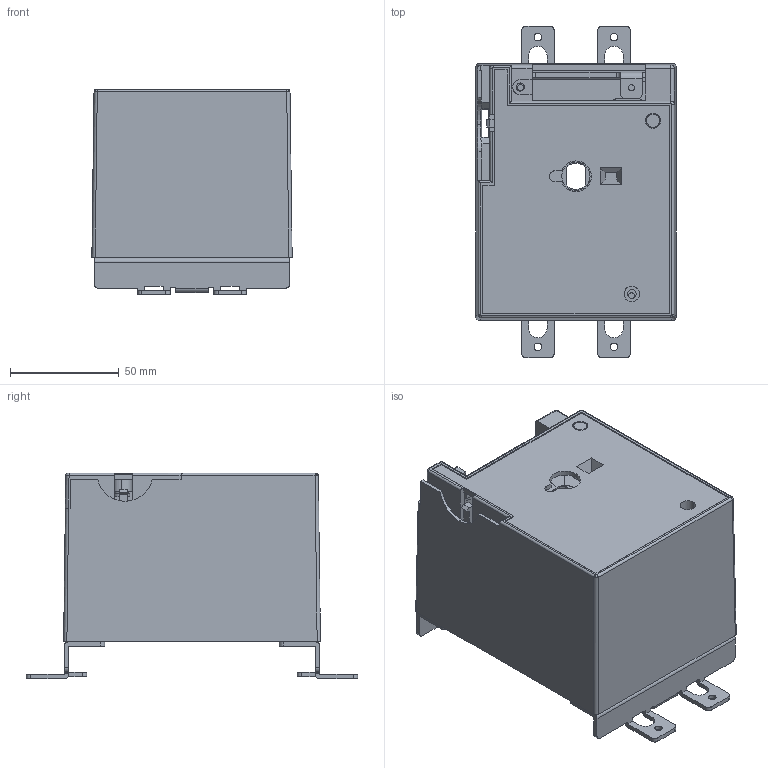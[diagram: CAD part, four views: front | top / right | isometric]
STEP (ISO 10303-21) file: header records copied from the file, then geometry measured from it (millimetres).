
FILE_DESCRIPTION (( 'STEP AP214' ), '1' );
FILE_NAME ('TGM1NE-CD2-250.STEP', '2025-12-11T10:12:25', ( '' ), ( '' ), 'SwSTEP 2.0', 'SolidWorks 2024', '' );
FILE_SCHEMA (( 'AUTOMOTIVE_DESIGN' ));
Length unit declared in the file: millimetre
Products named in the file (7): TGM1NE-CD2-250.STEP; CD2-100_____1.STEP; TGM1NE-CD2-250; CD2-100_______1.STEP; TGM1N-250_____1.STEP; _________1.STEP; CD2-100____-0_1.STEP
Assembly tree (6 placements, depth 3):
  TGM1NE-CD2-250
    TGM1NE-CD2-250.STEP
      CD2-100_____1.STEP
      CD2-100_______1.STEP
      TGM1N-250_____1.STEP
      CD2-100____-0_1.STEP
      _________1.STEP
Bounding box: 92.1 x 152.4 x 94.5 mm (x, y, z)
Volume: 149431.5 mm3; surface area: 128498.6 mm2
Topology: 6 solids, 6 shells, 576 faces, 1671 edges, 1104 vertices
Faces by surface type: plane 345, cylinder 185, bspline 41, torus 4, sphere 1
Entity records: 20977 total; most frequent: CARTESIAN_POINT 5418, ORIENTED_EDGE 3342, DIRECTION 3029, EDGE_CURVE 1671, LINE 1191, VECTOR 1191, VERTEX_POINT 1104, AXIS2_PLACEMENT_3D 919
